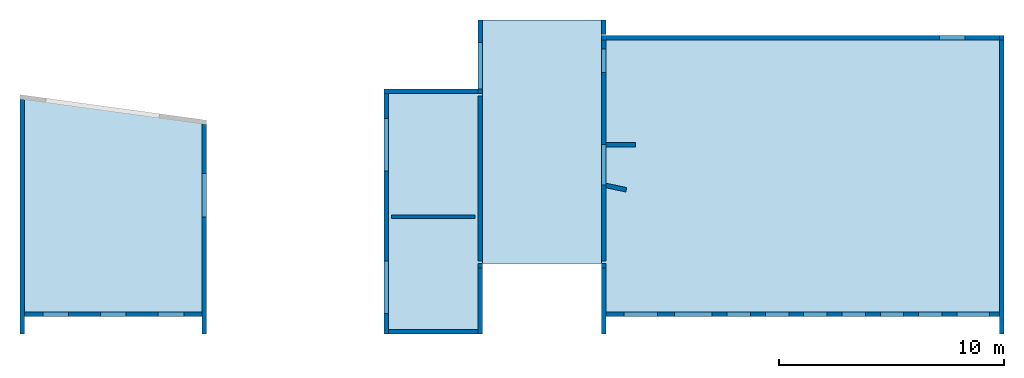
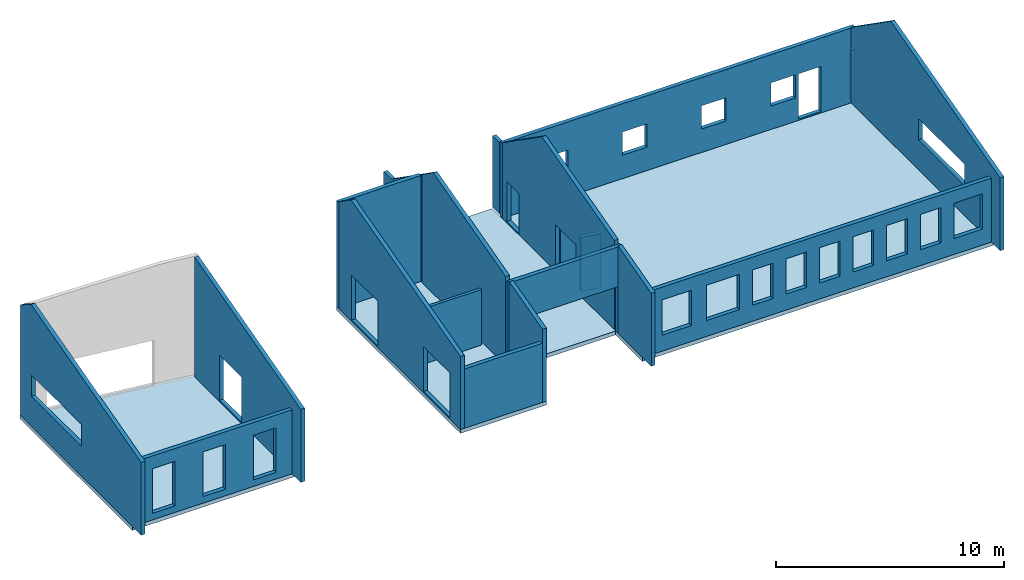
# One storey, part 1 of 2: 20 walls, 4 slabs, 26 openings.
"""IFC2X3 building model written with IfcOpenShell, lengths in metres."""

from ifc_helpers import new_model, entity, si_unit, converted_unit, derived_unit, direction, frame, frame_2d, origin, origin_2d_with_axis, place, context, subcontext, project, spatial, polyline, rectangle, outline, extrude, clip, halfspace, faceted_brep, material, layer, layer_set, layer_usage, type_object, element, save


model = new_model("IFC2X3")

# Units and contexts
model_context = context("Model", 3, precision=1e-05, world=origin(), true_north=direction((6.12303176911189e-17, 1.0)))
body_context = subcontext(model_context, "Body", "Model", "MODEL_VIEW")
ifc_project = project(units=[si_unit("LENGTHUNIT", "METRE"), si_unit("AREAUNIT", "SQUARE_METRE"), si_unit("VOLUMEUNIT", "CUBIC_METRE"), converted_unit("PLANEANGLEUNIT", "DEGREE", entity("IfcRatioMeasure", 0.0174532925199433), si_unit("PLANEANGLEUNIT", "RADIAN"), dimensions=[0, 0, 0, 0, 0, 0, 0]), si_unit("MASSUNIT", "GRAM", prefix="KILO"), si_unit("TIMEUNIT", "SECOND"), si_unit("FREQUENCYUNIT", "HERTZ"), si_unit("THERMODYNAMICTEMPERATUREUNIT", "DEGREE_CELSIUS"), derived_unit("THERMALTRANSMITTANCEUNIT", [(si_unit("MASSUNIT", "GRAM", prefix="KILO"), 1), (si_unit("THERMODYNAMICTEMPERATUREUNIT", "KELVIN"), -1), (si_unit("TIMEUNIT", "SECOND"), -3)]), derived_unit("VOLUMETRICFLOWRATEUNIT", [(si_unit("LENGTHUNIT", "METRE"), 3), (si_unit("TIMEUNIT", "SECOND"), -1)]), si_unit("ELECTRICCURRENTUNIT", "AMPERE"), si_unit("ELECTRICVOLTAGEUNIT", "VOLT"), si_unit("POWERUNIT", "WATT"), si_unit("FORCEUNIT", "NEWTON", prefix="KILO"), si_unit("ILLUMINANCEUNIT", "LUX"), si_unit("LUMINOUSFLUXUNIT", "LUMEN"), si_unit("LUMINOUSINTENSITYUNIT", "CANDELA"), derived_unit("USERDEFINED", [(si_unit("MASSUNIT", "GRAM", prefix="KILO"), -1), (si_unit("LENGTHUNIT", "METRE"), -2), (si_unit("TIMEUNIT", "SECOND"), 3), (si_unit("LUMINOUSFLUXUNIT", "LUMEN"), 1)]), derived_unit("LINEARVELOCITYUNIT", [(si_unit("LENGTHUNIT", "METRE"), 1), (si_unit("TIMEUNIT", "SECOND"), -1)]), si_unit("PRESSUREUNIT", "PASCAL"), derived_unit("USERDEFINED", [(si_unit("LENGTHUNIT", "METRE"), -2), (si_unit("MASSUNIT", "GRAM", prefix="KILO"), 1), (si_unit("TIMEUNIT", "SECOND"), -2)])], contexts=[model_context])

# Site, building, storey
site_placement = place(None, origin())
site = spatial("IfcSite", under=ifc_project, at=site_placement, Name="Default", CompositionType="ELEMENT")
building_placement = place(site_placement, origin())
building = spatial("IfcBuilding", under=site, at=building_placement, CompositionType="ELEMENT")
storey_placement = place(building_placement, origin())
storey = spatial("IfcBuildingStorey", under=building, at=storey_placement, Name="Niveau 0", CompositionType="ELEMENT", Elevation=-1.94916083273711e-14)

# Slabs
ifc_material_1 = material(Name="Maçonnerie - Béton")
ifc_layer_1 = layer(ifc_material_1, 0.21)
ifc_layer_set_1 = layer_set([ifc_layer_1], Name="Sol:Dalle en béton - 210 mm")
ifc_layer_usage_1 = layer_usage(ifc_layer_set_1, "AXIS3", "POSITIVE", 0.0)
slab_1_placement = place(storey_placement, origin())
element("IfcSlab", 1, at=slab_1_placement, inside=storey, material=ifc_layer_usage_1, Name="Sol:Dalle en béton - 210 mm", ObjectType="Sol:Dalle en béton - 210 mm", PredefinedType="FLOOR", context=body_context, shape_type="SweptSolid", body=[
    extrude(rectangle(XDim=12.4799998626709, YDim=17.8500015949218, at=origin_2d_with_axis()), frame((12.4525715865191, 3.38524974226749, -0.07), z_axis=(0.0, 0.0, -1.0), x_axis=(0.0, 1.0, 0.0)), (0.0, 0.0, 1.0), 0.21),
])
ifc_layer_usage_2 = layer_usage(ifc_layer_set_1, "AXIS3", "POSITIVE", 0.0)
slab_2_placement = place(storey_placement, origin())
element("IfcSlab", 2, at=slab_2_placement, inside=storey, material=ifc_layer_usage_2, Name="Sol:Dalle en béton - 210 mm", ObjectType="Sol:Dalle en béton - 210 mm", PredefinedType="FLOOR", context=body_context, shape_type="SweptSolid", body=[
    extrude(rectangle(XDim=10.8099999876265, YDim=5.30000409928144, at=frame_2d((-8.88178419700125e-16, 6.66133814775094e-16), x_axis=(1.0, 0.0))), frame((0.877568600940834, 4.90024967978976, -0.07), z_axis=(0.0, 0.0, -1.0), x_axis=(0.0, 1.0, 0.0)), (0.0, 0.0, 1.0), 0.21),
])
ifc_layer_usage_3 = layer_usage(ifc_layer_set_1, "AXIS3", "POSITIVE", 0.0)
slab_3_placement = place(storey_placement, origin())
element("IfcSlab", 3, at=slab_3_placement, inside=storey, material=ifc_layer_usage_3, Name="Sol:Dalle en béton - 210 mm", ObjectType="Sol:Dalle en béton - 210 mm", PredefinedType="FLOOR", context=body_context, shape_type="SweptSolid", body=[
    extrude(rectangle(XDim=10.87, YDim=4.35308198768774, at=frame_2d((4.44089209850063e-15, 0.0), x_axis=(1.0, 0.0))), frame((-3.94897444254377, 1.81024968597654, -0.07), z_axis=(0.0, 0.0, -1.0), x_axis=(0.0, 1.0, 0.0)), (0.0, 0.0, 1.0), 0.21),
])
ifc_layer_usage_4 = layer_usage(ifc_layer_set_1, "AXIS3", "POSITIVE", 0.0)
slab_4_placement = place(storey_placement, origin())
element("IfcSlab", 4, at=slab_4_placement, inside=storey, material=ifc_layer_usage_4, Name="Sol:Dalle en béton - 210 mm", ObjectType="Sol:Dalle en béton - 210 mm", PredefinedType="FLOOR", context=body_context, shape_type="SweptSolid", body=[
    extrude(outline(polyline([(-4.6401399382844, -4.14), (5.20726322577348, -4.14), (4.07301665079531, 4.14), (-4.6401399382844, 4.14), (-4.6401399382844, -4.14)])), frame((-18.1455154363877, 1.78538962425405, -0.07), z_axis=(0.0, 0.0, -1.0), x_axis=(0.0, 1.0, 0.0)), (0.0, 0.0, 1.0), 0.21),
])

# Wall
ifc_material_2 = material(Name="Mur par défaut")
wall_type_1 = type_object("IfcWallType", Name="Mur de base:Générique - Ext. 200 mm", PredefinedType="NOTDEFINED")
wall_1_placement = place(storey_placement, frame((-14.1055154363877, 5.68393573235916, -0.0699999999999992), z_axis=(0.0, 0.0, 1.0), x_axis=(0.0, -1.0, 0.0)))
element("IfcWall", 5, at=wall_1_placement, inside=storey, type_object=wall_type_1, material=ifc_material_2, Name="Mur de base:Générique - Ext. 200 mm", ObjectType="Mur de base:Générique - Ext. 200 mm", context=body_context, shape_type="Brep", body=[
    faceted_brep([(0.0, -0.100000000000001, 0.0), (8.33868604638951, -0.100000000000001, 0.0), (8.53868604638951, -0.100000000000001, 0.0), (9.30868604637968, -0.100000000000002, 0.0), (9.30868604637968, -0.100000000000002, 3.90226947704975), (0.0, -0.100000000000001, 6.41204884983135), (2.18014607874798, -0.100000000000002, 2.47), (4.12014607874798, -0.100000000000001, 2.47), (4.12014607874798, -0.100000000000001, 0.0699999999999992), (2.18014607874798, -0.100000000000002, 0.0699999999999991), (9.30868604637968, 0.0999999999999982, 0.0), (0.0273972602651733, 0.0999999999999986, 0.0), (0.0273972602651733, 0.0999999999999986, 6.40466208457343), (9.30868604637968, 0.0999999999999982, 3.90226947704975), (4.12014607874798, 0.0999999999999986, 2.47), (2.18014607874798, 0.0999999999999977, 2.47), (2.18014607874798, 0.0999999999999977, 0.0699999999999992), (4.12014607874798, 0.0999999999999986, 0.0699999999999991)], [[[0, 1, 2, 3, 4, 5], [6, 7, 8, 9]], [[10, 11, 12, 13], [14, 15, 16, 17]], [[0, 5, 12, 11]], [[6, 15, 14, 7]], [[8, 17, 16, 9]], [[15, 6, 9, 16]], [[7, 14, 17, 8]], [[3, 2, 1, 0, 11, 10]], [[4, 3, 10, 13]], [[5, 4, 13, 12]]]),
])

# Wall, openings
ifc_layer_2 = layer(ifc_material_2, 0.2)
ifc_layer_set_2 = layer_set([ifc_layer_2], Name="Mur de base:Générique - Ext. 200 mm")
ifc_layer_usage_5 = layer_usage(ifc_layer_set_2, "AXIS2", "NEGATIVE", 0.1)
wall_2_placement = place(storey_placement, frame((-14.2055154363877, -2.75475031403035, -0.0699999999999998), z_axis=(0.0, 0.0, 1.0), x_axis=(-1.0, 0.0, 0.0)))
wall_2 = element("IfcWallStandardCase", 6, at=wall_2_placement, inside=storey, type_object=wall_type_1, material=ifc_layer_usage_5, Name="Mur de base:Générique - Ext. 200 mm", ObjectType="Mur de base:Générique - Ext. 200 mm", context=body_context, shape_type="SweptSolid", body=[
    extrude(rectangle(XDim=7.88, YDim=0.2, at=frame_2d((3.94, -1.11022302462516e-16), x_axis=(-1.0, 0.0))), origin(), (0.0, 0.0, 1.0), 3.42),
])
opening_1_placement = place(wall_2_placement, frame((7.06999999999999, 0.100000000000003, 0.35)))
element("IfcOpeningElement", 7, at=opening_1_placement, cuts=wall_2, Name="Mur de base:Générique - Ext. 200 mm", ObjectType="Opening", context=body_context, shape_type="SweptSolid", body=[
    extrude(rectangle(XDim=2.39, YDim=1.14, at=frame_2d((-1.11022302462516e-16, 2.16493489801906e-15), x_axis=(1.0, 0.0))), frame((-0.569999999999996, -0.200000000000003, 1.195), z_axis=(0.0, 1.0, 0.0), x_axis=(0.0, 0.0, -1.0)), (0.0, 0.0, 1.0), 0.2),
])
opening_2_placement = place(wall_2_placement, frame((4.51, 0.100000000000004, 0.35)))
element("IfcOpeningElement", 8, at=opening_2_placement, cuts=wall_2, Name="Mur de base:Générique - Ext. 200 mm", ObjectType="Opening", context=body_context, shape_type="SweptSolid", body=[
    extrude(rectangle(XDim=2.39, YDim=1.14, at=frame_2d((-1.11022302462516e-16, 0.0), x_axis=(1.0, 0.0))), frame((-0.569999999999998, -0.200000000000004, 1.195), z_axis=(0.0, 1.0, 0.0), x_axis=(0.0, 0.0, -1.0)), (0.0, 0.0, 1.0), 0.2),
])
opening_3_placement = place(wall_2_placement, frame((1.95, 0.100000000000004, 0.35)))
element("IfcOpeningElement", 9, at=opening_3_placement, cuts=wall_2, Name="Mur de base:Générique - Ext. 200 mm", ObjectType="Opening", context=body_context, shape_type="SweptSolid", body=[
    extrude(rectangle(XDim=2.39, YDim=1.14, at=frame_2d((-1.11022302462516e-16, 2.16493489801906e-15), x_axis=(1.0, 0.0))), frame((-0.569999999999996, -0.200000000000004, 1.195), z_axis=(0.0, 1.0, 0.0), x_axis=(0.0, 0.0, -1.0)), (0.0, 0.0, 1.0), 0.2),
])

# Wall, opening
ifc_layer_usage_6 = layer_usage(ifc_layer_set_2, "AXIS2", "POSITIVE", -0.1)
wall_3_placement = place(storey_placement, frame((-22.1855154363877, -3.62475031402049, -0.0699999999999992), z_axis=(0.0, 0.0, 1.0), x_axis=(0.0, 1.0, 0.0)))
wall_3 = element("IfcWallStandardCase", 10, at=wall_3_placement, inside=storey, type_object=wall_type_1, material=ifc_layer_usage_6, Name="Mur de base:Générique - Ext. 200 mm", ObjectType="Mur de base:Générique - Ext. 200 mm", context=body_context, shape_type="Clipping", body=[
    clip(clip(extrude(rectangle(XDim=10.572403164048, YDim=0.199999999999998, at=frame_2d((5.28620158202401, -1.38777878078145e-17), x_axis=(-1.0, 0.0))), origin(), (0.0, 0.0, 1.0), 6.50268402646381), halfspace(frame((0.0, -0.100000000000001, 3.90226947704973), z_axis=(-0.260321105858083, 0.0, 0.965522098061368), x_axis=(0.0, 1.0, 0.0)), False)), halfspace(frame((9.64484882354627, -0.100000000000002, 6.50268402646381), z_axis=(0.535240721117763, 0.0, 0.84469957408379), x_axis=(0.0, 1.0, 0.0)), False)),
])
opening_4_placement = place(wall_3_placement, frame((5.20961024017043, 0.0999999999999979, 1.6)))
element("IfcOpeningElement", 11, at=opening_4_placement, cuts=wall_3, Name="Mur de base:Générique - Ext. 200 mm", ObjectType="Opening", context=body_context, shape_type="SweptSolid", body=[
    extrude(rectangle(XDim=1.14, YDim=4.41, at=frame_2d((1.11022302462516e-16, -2.22044604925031e-16), x_axis=(1.0, 0.0))), frame((2.205, -0.199999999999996, 0.57), z_axis=(0.0, 1.0, 0.0), x_axis=(0.0, 0.0, -1.0)), (0.0, 0.0, 1.0), 0.199999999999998),
])

# Wall
ifc_layer_usage_7 = layer_usage(ifc_layer_set_2, "AXIS2", "NEGATIVE", 0.1)
wall_4_placement = place(storey_placement, frame((-6.12551543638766, 7.14524968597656, -0.0700000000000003)))
element("IfcWallStandardCase", 12, at=wall_4_placement, inside=storey, type_object=wall_type_1, material=ifc_layer_usage_7, Name="Mur de base:Générique - Ext. 200 mm", ObjectType="Mur de base:Générique - Ext. 200 mm", context=body_context, shape_type="SweptSolid", body=[
    extrude(rectangle(XDim=4.15308622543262, YDim=0.2, at=frame_2d((2.07654311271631, 3.33066907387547e-16), x_axis=(-1.0, 0.0))), origin(), (0.0, 0.0, 1.0), 5.67),
])

# Wall, openings
ifc_layer_usage_8 = layer_usage(ifc_layer_set_2, "AXIS2", "POSITIVE", -0.1)
wall_5_placement = place(storey_placement, frame((-6.02551543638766, 7.04524968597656, -0.0700000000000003), z_axis=(0.0, 0.0, 1.0), x_axis=(0.0, -1.0, 0.0)))
wall_5 = element("IfcWallStandardCase", 13, at=wall_5_placement, inside=storey, type_object=wall_type_1, material=ifc_layer_usage_8, Name="Mur de base:Générique - Ext. 200 mm", ObjectType="Mur de base:Générique - Ext. 200 mm", context=body_context, shape_type="Clipping", body=[
    clip(clip(extrude(rectangle(XDim=10.67, YDim=0.2, at=frame_2d((5.33500000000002, -1.2490009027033e-16), x_axis=(-1.0, 0.0))), origin(), (0.0, 0.0, 1.0), 6.4707487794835), halfspace(frame((1.08816859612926, -0.100000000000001, 6.4707487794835), z_axis=(0.258819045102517, 0.0, 0.965925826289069), x_axis=(0.0, 1.0, 0.0)), False)), halfspace(frame((0.0, -0.1, 5.70880492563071), z_axis=(-0.573576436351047, 0.0, 0.819152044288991), x_axis=(0.0, 1.0, 0.0)), False)),
])
opening_5_placement = place(wall_5_placement, frame((3.45, -0.100000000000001, 0.0700000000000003)))
element("IfcOpeningElement", 14, at=opening_5_placement, cuts=wall_5, Name="Mur de base:Générique - Ext. 200 mm", ObjectType="Opening", context=body_context, shape_type="SweptSolid", body=[
    extrude(rectangle(XDim=2.4, YDim=2.33, at=frame_2d((0.0, 2.22044604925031e-16), x_axis=(1.0, 0.0))), frame((-1.165, 0.0, 1.2), z_axis=(0.0, 1.0, 0.0), x_axis=(0.0, 0.0, -1.0)), (0.0, 0.0, 1.0), 0.2),
])
opening_6_placement = place(wall_5_placement, frame((9.76000000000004, -0.100000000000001, 0.0700000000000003)))
element("IfcOpeningElement", 15, at=opening_6_placement, cuts=wall_5, Name="Mur de base:Générique - Ext. 200 mm", ObjectType="Opening", context=body_context, shape_type="SweptSolid", body=[
    extrude(rectangle(XDim=2.4, YDim=2.33, at=frame_2d((0.0, 1.11022302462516e-16), x_axis=(1.0, 0.0))), frame((-1.165, 0.0, 1.2), z_axis=(0.0, 1.0, 0.0), x_axis=(0.0, 0.0, -1.0)), (0.0, 0.0, 1.0), 0.2),
])

# Walls
ifc_layer_usage_9 = layer_usage(ifc_layer_set_2, "AXIS2", "POSITIVE", -0.1)
wall_6_placement = place(storey_placement, frame((-5.92551543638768, -3.52475031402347, -0.0699999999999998)))
element("IfcWallStandardCase", 16, at=wall_6_placement, inside=storey, type_object=wall_type_1, material=ifc_layer_usage_9, Name="Mur de base:Générique - Ext. 200 mm", ObjectType="Mur de base:Générique - Ext. 200 mm", context=body_context, shape_type="SweptSolid", body=[
    extrude(rectangle(XDim=4.15308198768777, YDim=0.2, at=frame_2d((2.07654099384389, 1.17961196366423e-16), x_axis=(-1.0, 0.0))), origin(), (0.0, 0.0, 1.0), 3.165),
])
ifc_layer_usage_10 = layer_usage(ifc_layer_set_2, "AXIS2", "POSITIVE", -0.1)
wall_7_placement = place(storey_placement, frame((-1.87243344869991, -3.62475031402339, -0.0700000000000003), z_axis=(0.0, 0.0, 1.0), x_axis=(0.0, 1.0, 0.0)))
element("IfcWallStandardCase", 17, at=wall_7_placement, inside=storey, type_object=wall_type_1, material=ifc_layer_usage_10, Name="Mur de base:Générique - Ext. 200 mm", ObjectType="Mur de base:Générique - Ext. 200 mm", context=body_context, shape_type="Clipping", body=[
    clip(extrude(rectangle(XDim=2.91999999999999, YDim=0.2, at=frame_2d((1.46, -2.08166817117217e-17), x_axis=(-1.0, 0.0))), origin(), (0.0, 0.0, 1.0), 4.68571639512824), halfspace(frame((0.0, -0.1, 3.90330475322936), z_axis=(-0.25881904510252, 0.0, 0.965925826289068), x_axis=(0.0, 1.0, 0.0)), False)),
])
ifc_layer_usage_11 = layer_usage(ifc_layer_set_2, "AXIS2", "POSITIVE", -0.1)
wall_8_placement = place(storey_placement, frame((-1.87243344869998, -0.384750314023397, -0.0700000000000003), z_axis=(0.0, 0.0, 1.0), x_axis=(0.0, 1.0, 0.0)))
element("IfcWallStandardCase", 18, at=wall_8_placement, inside=storey, type_object=wall_type_1, material=ifc_layer_usage_11, Name="Mur de base:Générique - Ext. 200 mm", ObjectType="Mur de base:Générique - Ext. 200 mm", context=body_context, shape_type="Clipping", body=[
    clip(clip(extrude(rectangle(XDim=7.31, YDim=0.2, at=frame_2d((3.655, -6.93889390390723e-18), x_axis=(-1.0, 0.0))), origin(), (0.0, 0.0, 1.0), 6.46999999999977), halfspace(frame((6.34290077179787, -0.1, 6.46999999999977), z_axis=(0.573576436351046, 0.0, 0.819152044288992), x_axis=(0.0, 1.0, 0.0)), False)), halfspace(frame((0.0, -0.1, 4.77042486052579), z_axis=(-0.25881904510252, 0.0, 0.965925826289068), x_axis=(0.0, 1.0, 0.0)), False)),
])
ifc_layer_usage_12 = layer_usage(ifc_layer_set_2, "AXIS2", "POSITIVE", -0.1)
wall_9_placement = place(storey_placement, frame((4.617919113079, 2.77088059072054, -0.0699999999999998), z_axis=(0.0, 0.0, 1.0), x_axis=(-0.978147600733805, 0.207911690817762, 0.0)))
element("IfcWallStandardCase", 19, at=wall_9_placement, inside=storey, type_object=wall_type_1, material=ifc_layer_usage_12, Name="Mur de base:Générique - Ext. 200 mm", ObjectType="Mur de base:Générique - Ext. 200 mm", context=body_context, shape_type="SweptSolid", body=[
    extrude(outline(polyline([(0.931494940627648, -0.1), (0.888983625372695, 0.0999999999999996), (0.0, 0.0999999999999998), (0.0, -0.1), (0.931494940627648, -0.1)])), origin(), (0.0, 0.0, 1.0), 2.9),
])
ifc_layer_usage_13 = layer_usage(ifc_layer_set_2, "AXIS2", "POSITIVE", -0.1)
wall_10_placement = place(storey_placement, frame((3.62757078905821, -0.704750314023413, -0.0699999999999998), z_axis=(0.0, 0.0, 1.0), x_axis=(0.0, -1.0, 0.0)))
element("IfcWallStandardCase", 20, at=wall_10_placement, inside=storey, type_object=wall_type_1, material=ifc_layer_usage_13, Name="Mur de base:Générique - Ext. 200 mm", ObjectType="Mur de base:Générique - Ext. 200 mm", context=body_context, shape_type="Clipping", body=[
    clip(extrude(rectangle(XDim=2.91999999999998, YDim=0.2, at=frame_2d((1.45999999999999, 1.17961196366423e-16), x_axis=(-1.0, 0.0))), origin(), (0.0, 0.0, 1.0), 4.68571639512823), halfspace(frame((0.0, -0.1, 4.68571639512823), z_axis=(0.25881904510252, 0.0, 0.965925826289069), x_axis=(0.0, 1.0, 0.0)), False)),
])

# Wall, openings
ifc_layer_usage_14 = layer_usage(ifc_layer_set_2, "AXIS2", "POSITIVE", -0.1)
wall_11_placement = place(storey_placement, frame((3.7275707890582, -2.75475018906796, -0.0699999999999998)))
wall_11 = element("IfcWallStandardCase", 21, at=wall_11_placement, inside=storey, type_object=wall_type_1, material=ifc_layer_usage_14, Name="Mur de base:Générique - Ext. 200 mm", ObjectType="Mur de base:Générique - Ext. 200 mm", context=body_context, shape_type="SweptSolid", body=[
    extrude(rectangle(XDim=17.4500015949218, YDim=0.2, at=frame_2d((8.7250007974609, 0.0), x_axis=(-1.0, 0.0))), origin(), (0.0, 0.0, 1.0), 3.42),
])
opening_7_placement = place(wall_11_placement, frame((0.780000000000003, -0.100000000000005, 0.85)))
element("IfcOpeningElement", 22, at=opening_7_placement, cuts=wall_11, Name="Mur de base:Générique - Ext. 200 mm", ObjectType="Opening", context=body_context, shape_type="SweptSolid", body=[
    extrude(rectangle(XDim=1.89, YDim=1.49, at=frame_2d((-1.66533453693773e-16, 2.77555756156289e-16), x_axis=(1.0, 0.0))), frame((0.745, 0.0, 0.945), z_axis=(0.0, 1.0, 0.0), x_axis=(0.0, 0.0, -1.0)), (0.0, 0.0, 1.0), 0.2),
])
opening_8_placement = place(wall_11_placement, frame((3.03, -0.100000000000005, 0.85)))
element("IfcOpeningElement", 23, at=opening_8_placement, cuts=wall_11, Name="Mur de base:Générique - Ext. 200 mm", ObjectType="Opening", context=body_context, shape_type="SweptSolid", body=[
    extrude(rectangle(XDim=1.89, YDim=1.67, at=frame_2d((-1.66533453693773e-16, 0.0), x_axis=(1.0, 0.0))), frame((0.835, 0.0, 0.945), z_axis=(0.0, 1.0, 0.0), x_axis=(0.0, 0.0, -1.0)), (0.0, 0.0, 1.0), 0.2),
])
opening_9_placement = place(wall_11_placement, frame((5.36, -0.100000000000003, 0.85)))
element("IfcOpeningElement", 24, at=opening_9_placement, cuts=wall_11, Name="Mur de base:Générique - Ext. 200 mm", ObjectType="Opening", context=body_context, shape_type="SweptSolid", body=[
    extrude(rectangle(XDim=1.89, YDim=1.04, at=frame_2d((-1.66533453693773e-16, 0.0), x_axis=(1.0, 0.0))), frame((0.520000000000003, 0.0, 0.945), z_axis=(0.0, 1.0, 0.0), x_axis=(0.0, 0.0, -1.0)), (0.0, 0.0, 1.0), 0.2),
])
opening_10_placement = place(wall_11_placement, frame((7.05999152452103, -0.100000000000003, 0.85)))
element("IfcOpeningElement", 25, at=opening_10_placement, cuts=wall_11, Name="Mur de base:Générique - Ext. 200 mm", ObjectType="Opening", context=body_context, shape_type="SweptSolid", body=[
    extrude(rectangle(XDim=1.89, YDim=1.04, at=frame_2d((-1.66533453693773e-16, 1.11022302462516e-15), x_axis=(1.0, 0.0))), frame((0.520000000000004, 0.0, 0.945), z_axis=(0.0, 1.0, 0.0), x_axis=(0.0, 0.0, -1.0)), (0.0, 0.0, 1.0), 0.2),
])
opening_11_placement = place(wall_11_placement, frame((8.75999364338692, -0.100000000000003, 0.85)))
element("IfcOpeningElement", 26, at=opening_11_placement, cuts=wall_11, Name="Mur de base:Générique - Ext. 200 mm", ObjectType="Opening", context=body_context, shape_type="SweptSolid", body=[
    extrude(rectangle(XDim=1.89, YDim=1.04, at=frame_2d((-1.66533453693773e-16, -1.11022302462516e-15), x_axis=(1.0, 0.0))), frame((0.520000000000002, 0.0, 0.945), z_axis=(0.0, 1.0, 0.0), x_axis=(0.0, 0.0, -1.0)), (0.0, 0.0, 1.0), 0.2),
])
opening_12_placement = place(wall_11_placement, frame((10.4599957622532, -0.100000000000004, 0.85)))
element("IfcOpeningElement", 27, at=opening_12_placement, cuts=wall_11, Name="Mur de base:Générique - Ext. 200 mm", ObjectType="Opening", context=body_context, shape_type="SweptSolid", body=[
    extrude(rectangle(XDim=1.89, YDim=1.04, at=frame_2d((-1.66533453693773e-16, -1.11022302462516e-15), x_axis=(1.0, 0.0))), frame((0.520000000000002, 0.0, 0.945), z_axis=(0.0, 1.0, 0.0), x_axis=(0.0, 0.0, -1.0)), (0.0, 0.0, 1.0), 0.200000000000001),
])
opening_13_placement = place(wall_11_placement, frame((12.1599978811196, -0.100000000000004, 0.85)))
element("IfcOpeningElement", 28, at=opening_13_placement, cuts=wall_11, Name="Mur de base:Générique - Ext. 200 mm", ObjectType="Opening", context=body_context, shape_type="SweptSolid", body=[
    extrude(rectangle(XDim=1.89, YDim=1.04, at=frame_2d((-1.66533453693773e-16, -1.11022302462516e-15), x_axis=(1.0, 0.0))), frame((0.520000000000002, 0.0, 0.945), z_axis=(0.0, 1.0, 0.0), x_axis=(0.0, 0.0, -1.0)), (0.0, 0.0, 1.0), 0.200000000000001),
])
opening_14_placement = place(wall_11_placement, frame((13.859999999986, -0.100000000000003, 0.85)))
element("IfcOpeningElement", 29, at=opening_14_placement, cuts=wall_11, Name="Mur de base:Générique - Ext. 200 mm", ObjectType="Opening", context=body_context, shape_type="SweptSolid", body=[
    extrude(rectangle(XDim=1.89, YDim=1.04, at=frame_2d((-1.66533453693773e-16, 1.11022302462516e-15), x_axis=(1.0, 0.0))), frame((0.520000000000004, 0.0, 0.945), z_axis=(0.0, 1.0, 0.0), x_axis=(0.0, 0.0, -1.0)), (0.0, 0.0, 1.0), 0.2),
])
opening_15_placement = place(wall_11_placement, frame((15.559999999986, -0.100000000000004, 0.85)))
element("IfcOpeningElement", 30, at=opening_15_placement, cuts=wall_11, Name="Mur de base:Générique - Ext. 200 mm", ObjectType="Opening", context=body_context, shape_type="SweptSolid", body=[
    extrude(rectangle(XDim=1.89, YDim=1.44, at=frame_2d((-1.66533453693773e-16, 0.0), x_axis=(1.0, 0.0))), frame((0.720000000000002, 0.0, 0.945), z_axis=(0.0, 1.0, 0.0), x_axis=(0.0, 0.0, -1.0)), (0.0, 0.0, 1.0), 0.2),
])

# Wall, opening
ifc_layer_usage_15 = layer_usage(ifc_layer_set_2, "AXIS2", "NEGATIVE", 0.1)
wall_12_placement = place(storey_placement, frame((21.27757238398, -3.62475028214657, -0.0700000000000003), z_axis=(0.0, 0.0, 1.0), x_axis=(0.0, 1.0, 0.0)))
wall_12 = element("IfcWallStandardCase", 31, at=wall_12_placement, inside=storey, type_object=wall_type_1, material=ifc_layer_usage_15, Name="Mur de base:Générique - Ext. 200 mm", ObjectType="Mur de base:Générique - Ext. 200 mm", context=body_context, shape_type="Clipping", body=[
    clip(clip(extrude(rectangle(XDim=13.2499999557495, YDim=0.199999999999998, at=frame_2d((6.62499997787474, 0.0), x_axis=(-1.0, 0.0))), origin(), (0.0, 0.0, 1.0), 6.46999999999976), halfspace(frame((0.0, -0.100000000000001, 3.90226948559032), z_axis=(-0.25881904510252, 0.0, 0.965925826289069), x_axis=(0.0, 1.0, 0.0)), False)), halfspace(frame((9.58290073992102, -0.100000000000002, 6.46999999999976), z_axis=(0.573576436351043, 0.0, 0.819152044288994), x_axis=(0.0, 1.0, 0.0)), False)),
])
opening_16_placement = place(wall_12_placement, frame((3.115, 0.0999999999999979, 1.6)))
element("IfcOpeningElement", 32, at=opening_16_placement, cuts=wall_12, Name="Mur de base:Générique - Ext. 200 mm", ObjectType="Opening", context=body_context, shape_type="SweptSolid", body=[
    extrude(rectangle(XDim=1.14, YDim=4.04, at=frame_2d((1.11022302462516e-16, -2.22044604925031e-16), x_axis=(1.0, 0.0))), frame((2.02, -0.199999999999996, 0.57), z_axis=(0.0, 1.0, 0.0), x_axis=(0.0, 0.0, -1.0)), (0.0, 0.0, 1.0), 0.199999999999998),
])

# Wall
ifc_layer_usage_16 = layer_usage(ifc_layer_set_2, "AXIS2", "NEGATIVE", 0.1)
wall_13_placement = place(storey_placement, frame((21.17757238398, 9.52524967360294, 0.0)))
element("IfcWallStandardCase", 33, at=wall_13_placement, inside=storey, type_object=wall_type_1, material=ifc_layer_usage_16, Name="Mur de base:Générique - Ext. 200 mm", ObjectType="Mur de base:Générique - Ext. 200 mm", context=body_context, shape_type="SweptSolid", body=[
    extrude(rectangle(XDim=0.199999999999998, YDim=0.2, at=frame_2d((0.0999999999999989, 0.0), x_axis=(-1.0, 0.0))), origin(), (0.0, 0.0, 1.0), 2.75),
])

# Wall, openings
ifc_layer_usage_17 = layer_usage(ifc_layer_set_2, "AXIS2", "POSITIVE", -0.1)
wall_14_placement = place(storey_placement, frame((21.37757238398, 9.52524967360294, -0.0699999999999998), z_axis=(0.0, 0.0, 1.0), x_axis=(-1.0, 0.0, 0.0)))
wall_14 = element("IfcWallStandardCase", 34, at=wall_14_placement, inside=storey, type_object=wall_type_1, material=ifc_layer_usage_17, Name="Mur de base:Générique - Ext. 200 mm", ObjectType="Mur de base:Générique - Ext. 200 mm", context=body_context, shape_type="SweptSolid", body=[
    extrude(rectangle(XDim=17.8500017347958, YDim=0.2, at=frame_2d((8.9250008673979, -2.22044604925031e-16), x_axis=(-1.0, 0.0))), origin(), (0.0, 0.0, 1.0), 4.004),
])
opening_17_placement = place(wall_14_placement, frame((15.7700017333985, 0.100000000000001, 1.25)))
element("IfcOpeningElement", 35, at=opening_17_placement, cuts=wall_14, Name="Mur de base:Générique - Ext. 200 mm", ObjectType="Opening", context=body_context, shape_type="SweptSolid", body=[
    extrude(rectangle(XDim=1.24, YDim=1.24, at=origin_2d_with_axis()), frame((-0.620000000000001, -0.200000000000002, 0.62), z_axis=(0.0, 1.0, 0.0), x_axis=(0.0, 0.0, -1.0)), (0.0, 0.0, 1.0), 0.2),
])
opening_18_placement = place(wall_14_placement, frame((11.7699994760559, 0.100000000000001, 1.25)))
element("IfcOpeningElement", 36, at=opening_18_placement, cuts=wall_14, Name="Mur de base:Générique - Ext. 200 mm", ObjectType="Opening", context=body_context, shape_type="SweptSolid", body=[
    extrude(rectangle(XDim=1.24, YDim=1.24, at=frame_2d((0.0, 1.11022302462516e-15), x_axis=(1.0, 0.0))), frame((-0.620000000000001, -0.200000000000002, 0.62), z_axis=(0.0, 1.0, 0.0), x_axis=(0.0, 0.0, -1.0)), (0.0, 0.0, 1.0), 0.2),
])
opening_19_placement = place(wall_14_placement, frame((7.76999947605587, 0.100000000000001, 1.25)))
element("IfcOpeningElement", 37, at=opening_19_placement, cuts=wall_14, Name="Mur de base:Générique - Ext. 200 mm", ObjectType="Opening", context=body_context, shape_type="SweptSolid", body=[
    extrude(rectangle(XDim=1.24, YDim=1.24, at=frame_2d((0.0, 1.11022302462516e-15), x_axis=(1.0, 0.0))), frame((-0.620000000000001, -0.200000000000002, 0.62), z_axis=(0.0, 1.0, 0.0), x_axis=(0.0, 0.0, -1.0)), (0.0, 0.0, 1.0), 0.2),
])
opening_20_placement = place(wall_14_placement, frame((4.25999947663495, 0.100000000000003, 1.25)))
element("IfcOpeningElement", 38, at=opening_20_placement, cuts=wall_14, Name="Mur de base:Générique - Ext. 200 mm", ObjectType="Opening", context=body_context, shape_type="SweptSolid", body=[
    extrude(rectangle(XDim=1.24, YDim=1.24, at=frame_2d((0.0, 1.11022302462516e-15), x_axis=(1.0, 0.0))), frame((-0.620000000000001, -0.200000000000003, 0.62), z_axis=(0.0, 1.0, 0.0), x_axis=(0.0, 0.0, -1.0)), (0.0, 0.0, 1.0), 0.2),
])
opening_21_placement = place(wall_14_placement, frame((2.85999947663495, 0.100000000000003, 0.0699999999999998)))
element("IfcOpeningElement", 39, at=opening_21_placement, cuts=wall_14, Name="Mur de base:Générique - Ext. 200 mm", ObjectType="Opening", context=body_context, shape_type="SweptSolid", body=[
    extrude(rectangle(XDim=2.42, YDim=1.13, at=origin_2d_with_axis()), frame((-0.565000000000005, -0.200000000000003, 1.21), z_axis=(0.0, 1.0, 0.0), x_axis=(0.0, 0.0, -1.0)), (0.0, 0.0, 1.0), 0.2),
])

ifc_layer_usage_18 = layer_usage(ifc_layer_set_2, "AXIS2", "POSITIVE", -0.1)
wall_15_placement = place(storey_placement, frame((3.62757065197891, 9.42524967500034, -0.0700000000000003), z_axis=(0.0, 0.0, 1.0), x_axis=(1.39734166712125e-08, -1.0, 0.0)))
wall_15 = element("IfcWallStandardCase", 40, at=wall_15_placement, inside=storey, type_object=wall_type_1, material=ifc_layer_usage_18, Name="Mur de base:Générique - Ext. 200 mm", ObjectType="Mur de base:Générique - Ext. 200 mm", context=body_context, shape_type="Clipping", body=[
    clip(clip(extrude(rectangle(XDim=9.80999998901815, YDim=0.2, at=frame_2d((4.90499999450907, -1.80411241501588e-16), x_axis=(-1.0, 0.0))), origin(), (0.0, 0.0, 1.0), 6.47108661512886), halfspace(frame((0.0, -0.1, 4.043531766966), z_axis=(-0.573576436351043, 0.0, 0.819152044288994), x_axis=(0.0, 1.0, 0.0)), False)), halfspace(frame((3.46690761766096, -0.1, 6.47108661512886), z_axis=(0.258819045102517, 0.0, 0.965925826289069), x_axis=(0.0, 1.0, 0.0)), False)),
])
opening_22_placement = place(wall_15_placement, frame((6.44386403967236, -0.10000002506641, 0.0700000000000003)))
element("IfcOpeningElement", 41, at=opening_22_placement, cuts=wall_15, Name="Mur de base:Générique - Ext. 200 mm", ObjectType="Opening", context=body_context, shape_type="SweptSolid", body=[
    extrude(rectangle(XDim=2.42, YDim=1.79386403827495, at=frame_2d((0.0, 5.55111512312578e-16), x_axis=(1.0, 0.0))), frame((-0.896932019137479, 2.50664108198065e-08, 1.21), z_axis=(0.0, 1.0, 0.0), x_axis=(0.0, 0.0, -1.0)), (0.0, 0.0, 1.0), 0.2),
])
opening_23_placement = place(wall_15_placement, frame((1.46, -0.100000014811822, 0.0700000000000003)))
element("IfcOpeningElement", 42, at=opening_23_placement, cuts=wall_15, Name="Mur de base:Générique - Ext. 200 mm", ObjectType="Opening", context=body_context, shape_type="SweptSolid", body=[
    extrude(rectangle(XDim=2.13, YDim=1.06, at=frame_2d((0.0, 5.55111512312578e-16), x_axis=(1.0, 0.0))), frame((-0.530000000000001, 1.48118227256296e-08, 1.065), z_axis=(0.0, 1.0, 0.0), x_axis=(0.0, 0.0, -1.0)), (0.0, 0.0, 1.0), 0.2),
])

# Wall
ifc_layer_usage_19 = layer_usage(ifc_layer_set_2, "AXIS2", "POSITIVE", -0.1)
wall_16_placement = place(storey_placement, frame((3.72757071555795, 4.77524967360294, -0.0699999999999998)))
element("IfcWallStandardCase", 43, at=wall_16_placement, inside=storey, type_object=wall_type_1, material=ifc_layer_usage_19, Name="Mur de base:Générique - Ext. 200 mm", ObjectType="Mur de base:Générique - Ext. 200 mm", context=body_context, shape_type="SweptSolid", body=[
    extrude(rectangle(XDim=1.29513454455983, YDim=0.2, at=frame_2d((0.647567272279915, -5.55111512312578e-17), x_axis=(-1.0, 0.0))), origin(), (0.0, 0.0, 1.0), 2.9),
])

# Wall, openings
ifc_layer_usage_20 = layer_usage(ifc_layer_set_2, "AXIS2", "POSITIVE", -0.1)
wall_17_placement = place(storey_placement, frame((-1.87242921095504, 7.04524968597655, -0.0700000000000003), z_axis=(0.0, 0.0, 1.0), x_axis=(0.0, 1.0, 0.0)))
wall_17 = element("IfcWallStandardCase", 44, at=wall_17_placement, inside=storey, type_object=wall_type_1, material=ifc_layer_usage_20, Name="Mur de base:Générique - Ext. 200 mm", ObjectType="Mur de base:Générique - Ext. 200 mm", context=body_context, shape_type="Clipping", body=[
    clip(extrude(rectangle(XDim=3.25999998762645, YDim=0.2, at=frame_2d((1.62999999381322, 7.63278329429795e-17), x_axis=(-1.0, 0.0))), origin(), (0.0, 0.0, 1.0), 5.70880492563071), halfspace(frame((3.25999998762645, 0.0, 3.90349025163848), z_axis=(0.481342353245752, 0.0, 0.876532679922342), x_axis=(0.0, 1.0, 0.0)), False)),
])
opening_24_placement = place(wall_17_placement, frame((0.200000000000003, 0.1, 0.0700000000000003)))
element("IfcOpeningElement", 45, at=opening_24_placement, cuts=wall_17, Name="Mur de base:Générique - Ext. 200 mm", ObjectType="Opening", context=body_context, shape_type="SweptSolid", body=[
    extrude(rectangle(XDim=2.42, YDim=2.06, at=frame_2d((0.0, 5.55111512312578e-16), x_axis=(1.0, 0.0))), frame((1.03, -0.2, 1.21), z_axis=(0.0, 1.0, 0.0), x_axis=(0.0, 0.0, -1.0)), (0.0, 0.0, 1.0), 0.2),
])
opening_25_placement = place(wall_17_placement, origin())
element("IfcOpeningElement", 46, at=opening_25_placement, cuts=wall_17, Name="Mur de base:Générique - Ext. 200 mm", ObjectType="Opening", context=body_context, shape_type="SweptSolid", body=[
    extrude(outline(polyline([(-1.40089470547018, -0.109383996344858), (2.20421901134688, -0.109383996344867), (-0.803324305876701, 0.218767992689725), (-1.40089470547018, -0.109383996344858)])), frame((1.97941884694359, 0.0999999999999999, 4.48192155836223), z_axis=(0.0, -1.0, 0.0), x_axis=(-0.876532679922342, 0.0, 0.481342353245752)), (0.0, 0.0, 1.0), 0.2),
])

# Wall
ifc_layer_usage_21 = layer_usage(ifc_layer_set_2, "AXIS2", "NEGATIVE", 0.1)
wall_18_placement = place(storey_placement, frame((3.62757065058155, 9.665249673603, 0.0), z_axis=(0.0, 0.0, 1.0), x_axis=(0.0, 1.0, 0.0)))
element("IfcWallStandardCase", 47, at=wall_18_placement, inside=storey, type_object=wall_type_1, material=ifc_layer_usage_21, Name="Mur de base:Générique - Ext. 200 mm", ObjectType="Mur de base:Générique - Ext. 200 mm", context=body_context, shape_type="SweptSolid", body=[
    extrude(rectangle(XDim=0.64, YDim=0.2, at=frame_2d((0.32, -3.46944695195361e-17), x_axis=(-1.0, 0.0))), origin(), (0.0, 0.0, 1.0), 3.81680379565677),
])

# Wall, opening
ifc_layer_usage_22 = layer_usage(ifc_layer_set_2, "AXIS2", "NEGATIVE", 0.1)
wall_19_placement = place(storey_placement, frame((-1.9724334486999, -0.604750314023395, -0.0699999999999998)))
wall_19 = element("IfcWallStandardCase", 48, at=wall_19_placement, inside=storey, type_object=wall_type_1, material=ifc_layer_usage_22, Name="Mur de base:Générique - Ext. 200 mm", ObjectType="Mur de base:Générique - Ext. 200 mm", context=body_context, shape_type="SweptSolid", body=[
    extrude(rectangle(XDim=5.70000423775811, YDim=0.2, at=frame_2d((2.85000211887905, -3.46944695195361e-17), x_axis=(-1.0, 0.0))), origin(), (0.0, 0.0, 1.0), 4.62),
])
opening_26_placement = place(wall_19_placement, frame((0.2, -0.100000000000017, 0.0)))
element("IfcOpeningElement", 49, at=opening_26_placement, cuts=wall_19, Name="Mur de base:Générique - Ext. 200 mm", ObjectType="Opening", context=body_context, shape_type="SweptSolid", body=[
    extrude(rectangle(XDim=2.49, YDim=5.3, at=origin_2d_with_axis()), frame((2.65, 0.0, 1.245), z_axis=(0.0, 1.0, 0.0), x_axis=(0.0, 0.0, -1.0)), (0.0, 0.0, 1.0), 0.2),
])

# Wall
ifc_layer_3 = layer(ifc_material_2, 0.15)
ifc_layer_set_3 = layer_set([ifc_layer_3], Name="Mur de base:Générique - Ext. 150 mm")
ifc_layer_usage_23 = layer_usage(ifc_layer_set_3, "AXIS2", "NEGATIVE", 0.075)
wall_type_2 = type_object("IfcWallType", Name="Mur de base:Générique - Ext. 150 mm", PredefinedType="STANDARD", material=ifc_layer_set_3)
wall_20_placement = place(storey_placement, frame((-5.80601543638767, 1.58024968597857, -0.0699999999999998)))
element("IfcWallStandardCase", 50, at=wall_20_placement, inside=storey, type_object=wall_type_2, material=ifc_layer_usage_23, Name="Mur de base:Générique - Ext. 150 mm", ObjectType="Mur de base:Générique - Ext. 150 mm", context=body_context, shape_type="SweptSolid", body=[
    extrude(rectangle(XDim=3.714, YDim=0.15, at=frame_2d((1.857, 1.38777878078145e-17), x_axis=(-1.0, 0.0))), origin(), (0.0, 0.0, 1.0), 2.97),
])

save(model, "model.ifc")
